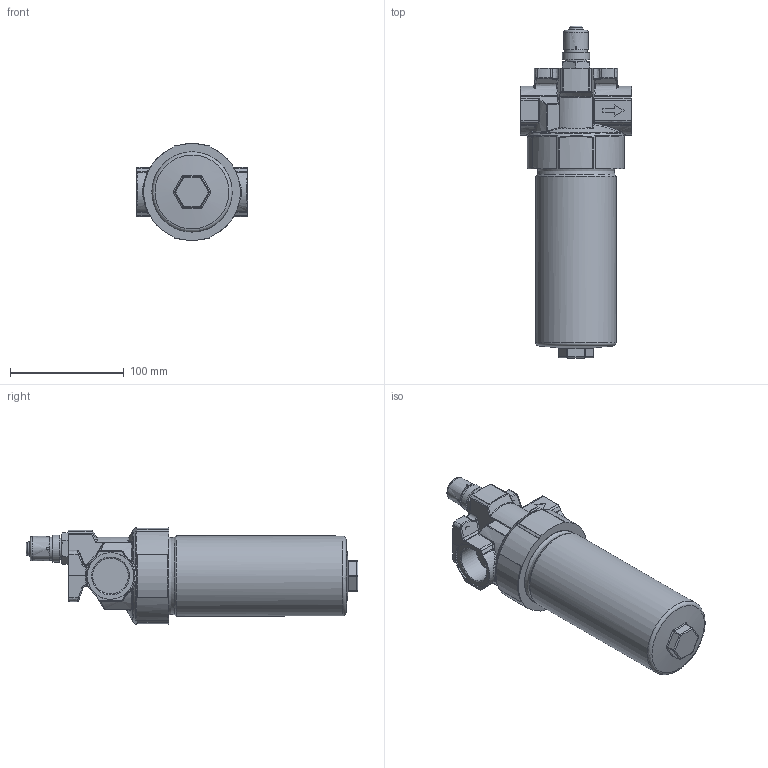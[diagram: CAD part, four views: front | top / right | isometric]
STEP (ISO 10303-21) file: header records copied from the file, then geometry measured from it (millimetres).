
FILE_DESCRIPTION((''),'2;1');
FILE_NAME('U:\Users\i.maeder\34308600_D112-186OD1.stp', '2016-08-29T09:29:46',('User'),('SDRC'),'I-DEAS Master Series 9','UNIX', 'Yes');
FILE_SCHEMA(('AUTOMOTIVE_DESIGN { 1 0 10303 214 1 1 1 1 }'));
Length unit declared in the file: millimetre
Products named in the file (1): 34308600
Bounding box: 98 x 291.8 x 84.95 mm (x, y, z)
Volume: 1000167.5 mm3; surface area: 81311.6 mm2
Topology: 1 solids, 2 shells, 454 faces, 1091 edges, 636 vertices
Faces by surface type: bspline 454
Entity records: 17661 total; most frequent: CARTESIAN_POINT 11549, ORIENTED_EDGE 2134, EDGE_CURVE 1067, VERTEX_POINT 636, B_SPLINE_CURVE_WITH_KNOTS 610, EDGE_LOOP 473, FACE_OUTER_BOUND 454, ADVANCED_FACE 454
